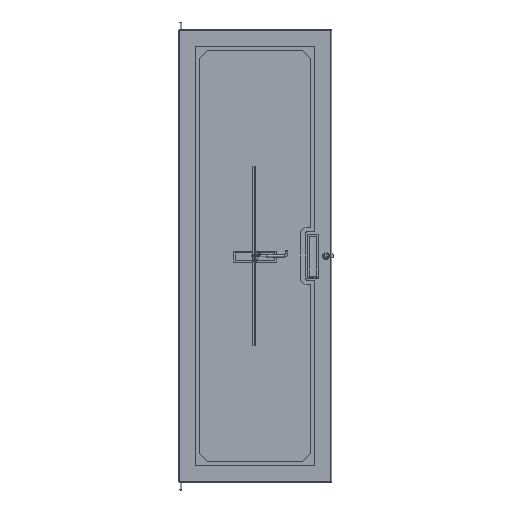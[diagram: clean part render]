
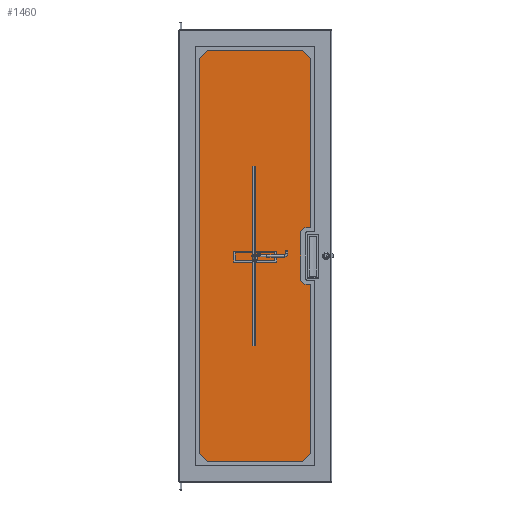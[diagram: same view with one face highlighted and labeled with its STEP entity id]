
A CAD part, front view. The second image highlights one B-rep face of the part: STEP entity #1460.
In plain terms, the highlighted planar face has unit normal (0, -1, 0).
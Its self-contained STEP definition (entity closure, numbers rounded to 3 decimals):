
#1460 = ADVANCED_FACE( '', ( #2173 ), #2174, .T. );
#2173 = FACE_OUTER_BOUND( '', #3099, .T. );
#2174 = PLANE( '', #3100 );
#3099 = EDGE_LOOP( '', ( #5330, #5331, #5332, #5333, #5334, #5335, #5336, #5337, #5338, #5339, #5340, #5341 ) );
#3100 = AXIS2_PLACEMENT_3D( '', #5342, #5343, #5344 );
#5330 = ORIENTED_EDGE( '', *, *, #6240, .T. );
#5331 = ORIENTED_EDGE( '', *, *, #6244, .T. );
#5332 = ORIENTED_EDGE( '', *, *, #6247, .T. );
#5333 = ORIENTED_EDGE( '', *, *, #6248, .T. );
#5334 = ORIENTED_EDGE( '', *, *, #6249, .T. );
#5335 = ORIENTED_EDGE( '', *, *, #6250, .T. );
#5336 = ORIENTED_EDGE( '', *, *, #6251, .T. );
#5337 = ORIENTED_EDGE( '', *, *, #6252, .T. );
#5338 = ORIENTED_EDGE( '', *, *, #6253, .T. );
#5339 = ORIENTED_EDGE( '', *, *, #6254, .T. );
#5340 = ORIENTED_EDGE( '', *, *, #6255, .T. );
#5341 = ORIENTED_EDGE( '', *, *, #6256, .T. );
#5342 = CARTESIAN_POINT( '', ( 180.975, 0., -81.756 ) );
#5343 = DIRECTION( '', ( 0., -1., 0. ) );
#5344 = DIRECTION( '', ( 0., 0., -1. ) );
#6240 = EDGE_CURVE( '', #7409, #7410, #7411, .T. );
#6244 = EDGE_CURVE( '', #7410, #7417, #7418, .T. );
#6247 = EDGE_CURVE( '', #7417, #7422, #7423, .T. );
#6248 = EDGE_CURVE( '', #7422, #7424, #7425, .T. );
#6249 = EDGE_CURVE( '', #7424, #7426, #7427, .T. );
#6250 = EDGE_CURVE( '', #7426, #7428, #7429, .T. );
#6251 = EDGE_CURVE( '', #7428, #7430, #7431, .T. );
#6252 = EDGE_CURVE( '', #7430, #7432, #7433, .T. );
#6253 = EDGE_CURVE( '', #7432, #7434, #7435, .T. );
#6254 = EDGE_CURVE( '', #7434, #7436, #7437, .T. );
#6255 = EDGE_CURVE( '', #7436, #7438, #7439, .T. );
#6256 = EDGE_CURVE( '', #7438, #7409, #7440, .T. );
#7409 = VERTEX_POINT( '', #9275 );
#7410 = VERTEX_POINT( '', #9276 );
#7411 = LINE( '', #9277, #9278 );
#7417 = VERTEX_POINT( '', #9287 );
#7418 = LINE( '', #9288, #9289 );
#7422 = VERTEX_POINT( '', #9295 );
#7423 = LINE( '', #9296, #9297 );
#7424 = VERTEX_POINT( '', #9298 );
#7425 = CIRCLE( '', #9299, 6.35 );
#7426 = VERTEX_POINT( '', #9300 );
#7427 = LINE( '', #9301, #9302 );
#7428 = VERTEX_POINT( '', #9303 );
#7429 = CIRCLE( '', #9304, 6.35 );
#7430 = VERTEX_POINT( '', #9305 );
#7431 = LINE( '', #9306, #9307 );
#7432 = VERTEX_POINT( '', #9308 );
#7433 = CIRCLE( '', #9309, 6.35 );
#7434 = VERTEX_POINT( '', #9310 );
#7435 = LINE( '', #9311, #9312 );
#7436 = VERTEX_POINT( '', #9313 );
#7437 = CIRCLE( '', #9314, 6.35 );
#7438 = VERTEX_POINT( '', #9315 );
#7439 = LINE( '', #9316, #9317 );
#7440 = LINE( '', #9318, #9319 );
#9275 = CARTESIAN_POINT( '', ( -187.325, 0., 656.438 ) );
#9276 = CARTESIAN_POINT( '', ( -187.325, 0., -656.438 ) );
#9277 = CARTESIAN_POINT( '', ( -187.325, 0., 656.438 ) );
#9278 = VECTOR( '', #10533, 1000. );
#9287 = CARTESIAN_POINT( '', ( 187.325, 0., -656.438 ) );
#9288 = CARTESIAN_POINT( '', ( -187.325, 0., -656.438 ) );
#9289 = VECTOR( '', #10537, 1000. );
#9295 = CARTESIAN_POINT( '', ( 187.325, 0., -81.756 ) );
#9296 = CARTESIAN_POINT( '', ( 187.325, 0., -656.438 ) );
#9297 = VECTOR( '', #10540, 1000. );
#9298 = CARTESIAN_POINT( '', ( 180.975, 0., -75.406 ) );
#9299 = AXIS2_PLACEMENT_3D( '', #10541, #10542, #10543 );
#9300 = CARTESIAN_POINT( '', ( 163.513, 0., -75.406 ) );
#9301 = CARTESIAN_POINT( '', ( 180.975, 0., -75.406 ) );
#9302 = VECTOR( '', #10544, 1000. );
#9303 = CARTESIAN_POINT( '', ( 157.163, 0., -69.056 ) );
#9304 = AXIS2_PLACEMENT_3D( '', #10545, #10546, #10547 );
#9305 = CARTESIAN_POINT( '', ( 157.163, 0., 69.056 ) );
#9306 = CARTESIAN_POINT( '', ( 157.163, 0., 69.056 ) );
#9307 = VECTOR( '', #10548, 1000. );
#9308 = CARTESIAN_POINT( '', ( 163.513, 0., 75.406 ) );
#9309 = AXIS2_PLACEMENT_3D( '', #10549, #10550, #10551 );
#9310 = CARTESIAN_POINT( '', ( 180.975, 0., 75.406 ) );
#9311 = CARTESIAN_POINT( '', ( 180.975, 0., 75.406 ) );
#9312 = VECTOR( '', #10552, 1000. );
#9313 = CARTESIAN_POINT( '', ( 187.325, 0., 81.756 ) );
#9314 = AXIS2_PLACEMENT_3D( '', #10553, #10554, #10555 );
#9315 = CARTESIAN_POINT( '', ( 187.325, 0., 656.438 ) );
#9316 = CARTESIAN_POINT( '', ( 187.325, 0., 81.756 ) );
#9317 = VECTOR( '', #10556, 1000. );
#9318 = CARTESIAN_POINT( '', ( 187.325, 0., 656.438 ) );
#9319 = VECTOR( '', #10557, 1000. );
#10533 = DIRECTION( '', ( 0., 0., -1. ) );
#10537 = DIRECTION( '', ( 1., 0., 0. ) );
#10540 = DIRECTION( '', ( 0., 0., 1. ) );
#10541 = CARTESIAN_POINT( '', ( 180.975, 0., -81.756 ) );
#10542 = DIRECTION( '', ( 0., -1., 0. ) );
#10543 = DIRECTION( '', ( -1., 0., 0. ) );
#10544 = DIRECTION( '', ( -1., 0., 0. ) );
#10545 = CARTESIAN_POINT( '', ( 163.513, 0., -69.056 ) );
#10546 = DIRECTION( '', ( 0., 1., 0. ) );
#10547 = DIRECTION( '', ( 1., 0., 0. ) );
#10548 = DIRECTION( '', ( 0., 0., 1. ) );
#10549 = CARTESIAN_POINT( '', ( 163.513, 0., 69.056 ) );
#10550 = DIRECTION( '', ( 0., 1., 0. ) );
#10551 = DIRECTION( '', ( 1., 0., 0. ) );
#10552 = DIRECTION( '', ( 1., 0., 0. ) );
#10553 = CARTESIAN_POINT( '', ( 180.975, 0., 81.756 ) );
#10554 = DIRECTION( '', ( 0., -1., 0. ) );
#10555 = DIRECTION( '', ( -1., 0., 0. ) );
#10556 = DIRECTION( '', ( 0., 0., 1. ) );
#10557 = DIRECTION( '', ( -1., 0., 0. ) );
